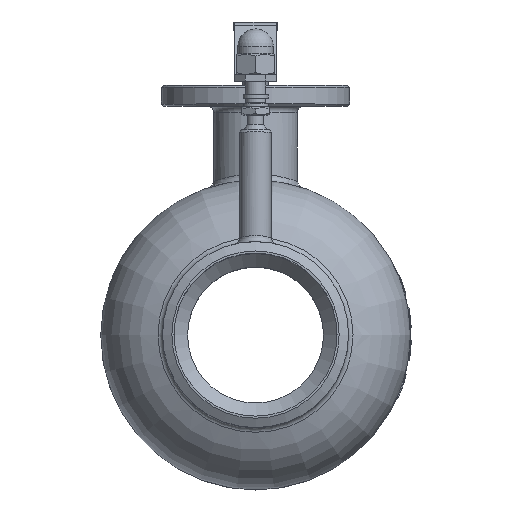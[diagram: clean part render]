
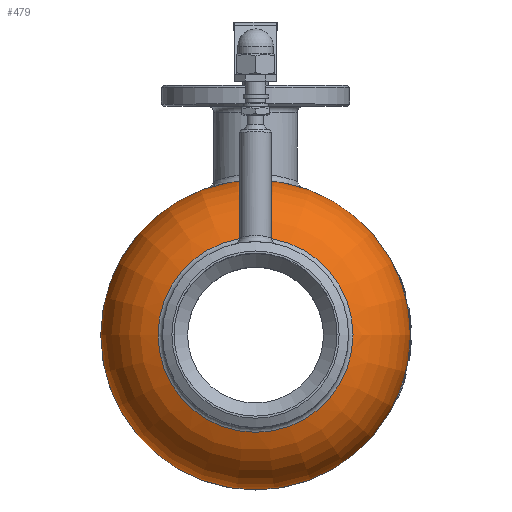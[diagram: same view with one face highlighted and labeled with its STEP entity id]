
A CAD part, top view. The second image highlights one B-rep face of the part: STEP entity #479.
In plain terms, the highlighted toroidal (fillet/blend) face has major radius 35.415 mm and minor radius 38.585 mm.
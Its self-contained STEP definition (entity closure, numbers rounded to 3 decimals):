
#479=ADVANCED_FACE('',(#2791,#2793),#2795,.T.);
#2791=FACE_OUTER_BOUND('',#2792,.T.);
#2792=EDGE_LOOP('',(#30934));
#2793=FACE_BOUND('',#2794,.T.);
#2794=EDGE_LOOP('',(#30935,#30936));
#2795=DEGENERATE_TOROIDAL_SURFACE('',#2796,35.415,38.585,.T.);
#2796=AXIS2_PLACEMENT_3D('',#2797,#2798,#2799);
#2797=CARTESIAN_POINT('',(0.,0.,37.5));
#2798=DIRECTION('',(0.,0.,1.));
#2799=DIRECTION('',(1.,0.,0.));
#30934=ORIENTED_EDGE('',*,*,#36669,.T.);
#30935=ORIENTED_EDGE('',*,*,#37285,.T.);
#30936=ORIENTED_EDGE('',*,*,#37286,.T.);
#36669=EDGE_CURVE('',#38785,#38785,#38786,.T.);
#37285=EDGE_CURVE('',#39987,#39988,#39989,.T.);
#37286=EDGE_CURVE('',#39988,#39987,#39990,.T.);
#38785=VERTEX_POINT('',#42338);
#38786=CIRCLE('',#42339,74.);
#39987=VERTEX_POINT('',#58383);
#39988=VERTEX_POINT('',#58384);
#39989=CIRCLE('',#58385,46.628);
#39990=CIRCLE('',#58389,46.628);
#42338=CARTESIAN_POINT('',(74.,0.,37.5));
#42339=AXIS2_PLACEMENT_3D('',#42340,#42341,#42342);
#42340=CARTESIAN_POINT('',(0.,0.,37.5));
#42341=DIRECTION('',(0.,0.,1.));
#42342=DIRECTION('',(1.,0.,0.));
#58383=CARTESIAN_POINT('',(46.628,0.,74.42));
#58384=CARTESIAN_POINT('',(-46.628,0.,74.42));
#58385=AXIS2_PLACEMENT_3D('',#58386,#58387,#58388);
#58386=CARTESIAN_POINT('',(0.,0.,74.42));
#58387=DIRECTION('',(0.,0.,-1.));
#58388=DIRECTION('',(1.,0.,0.));
#58389=AXIS2_PLACEMENT_3D('',#58390,#58391,#58392);
#58390=CARTESIAN_POINT('',(0.,0.,74.42));
#58391=DIRECTION('',(0.,0.,-1.));
#58392=DIRECTION('',(-1.,0.,0.));
